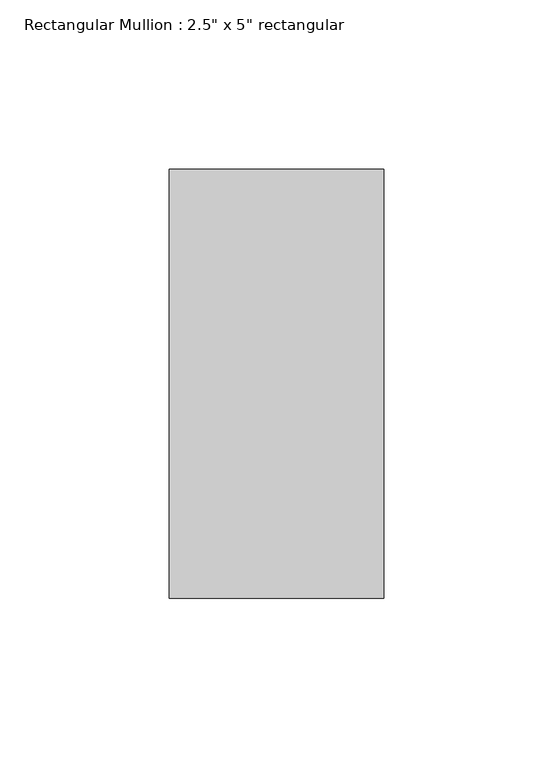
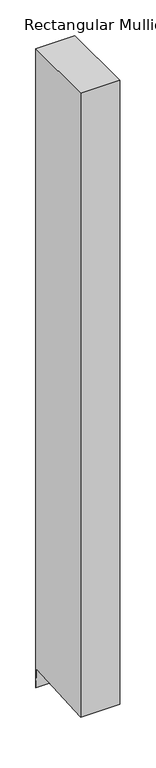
"""IFC4 building model written with IfcOpenShell, lengths in millimetres: member geometry."""

from ifc_helpers import new_model, si_unit, frame, origin, place, context, project, spatial, polyline, outline, extrude, source, transform, mapped, element, save


def member_8b20f1e8(model_context):
    return source(origin(), model_context, "Body", "SweptSolid", [
        extrude(outline(polyline([(-63.5, 0.0), (63.5, 0.0), (63.5, -1095.8481008), (61.3936206, -1062.1795175), (-63.5, -1069.9931324), (-63.5, 0.0)])), frame((-63.5, 0.0, 0.0), z_axis=(1.0, 0.0, 0.0), x_axis=(0.0, 1.0, 0.0)), (0.0, 0.0, 1.0), 63.5),
    ])


if __name__ == "__main__":
    model = new_model("IFC4")
    model_context = context("Model", 3, world=origin())
    ifc_project = project(units=[si_unit("LENGTHUNIT", "METRE", prefix="MILLI")], contexts=[model_context])
    site = spatial("IfcSite", under=ifc_project)
    building = spatial("IfcBuilding", under=site)
    placement = place(None, origin())
    member_shape = member_8b20f1e8(model_context)
    element("IfcMember", 1, ObjectType="Rectangular Mullion : 2.5\" x 5\" rectangular", at=placement, inside=building, context=model_context, shape_type="MappedRepresentation", body=[
        mapped(member_shape, transform((0.0, 0.0, 0.0), x_axis=(1.0, 0.0, 0.0), y_axis=(0.0, 1.0, 0.0), z_axis=(0.0, 0.0, 1.0))),
    ])
    save(model, "model.ifc")
